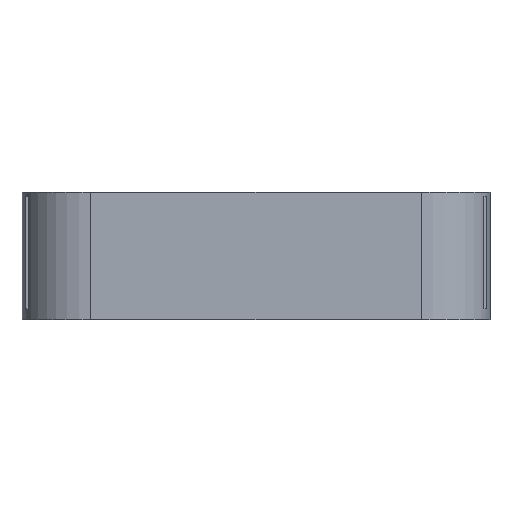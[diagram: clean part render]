
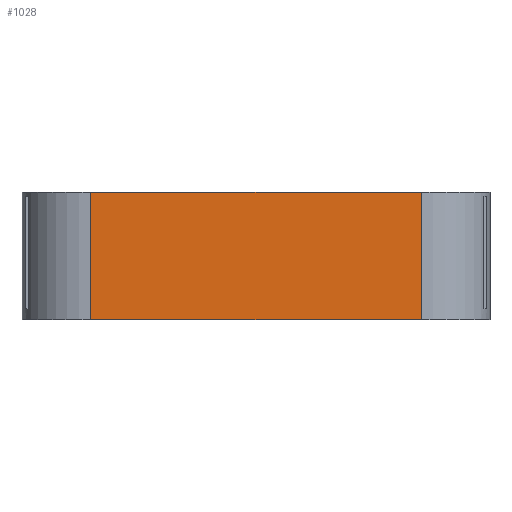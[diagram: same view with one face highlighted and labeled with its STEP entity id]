
A CAD part, front view. The second image highlights one B-rep face of the part: STEP entity #1028.
In plain terms, the highlighted planar face has unit normal (0, -1, 0).
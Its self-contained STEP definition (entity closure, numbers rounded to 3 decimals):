
#44 = PLANE('',#45);
#45 = AXIS2_PLACEMENT_3D('',#46,#47,#48);
#46 = CARTESIAN_POINT('',(-75.,-77.,41.));
#47 = DIRECTION('',(0.,0.,1.));
#48 = DIRECTION('',(1.,0.,0.));
#72 = CYLINDRICAL_SURFACE('',#73,22.);
#73 = AXIS2_PLACEMENT_3D('',#74,#75,#76);
#74 = CARTESIAN_POINT('',(-53.,-55.,0.));
#75 = DIRECTION('',(0.,0.,1.));
#76 = DIRECTION('',(-1.,-0.,0.));
#100 = PLANE('',#101);
#101 = AXIS2_PLACEMENT_3D('',#102,#103,#104);
#102 = CARTESIAN_POINT('',(-75.,-77.,0.));
#103 = DIRECTION('',(0.,0.,1.));
#104 = DIRECTION('',(1.,0.,0.));
#143 = VERTEX_POINT('',#144);
#144 = CARTESIAN_POINT('',(-53.,-77.,41.));
#166 = EDGE_CURVE('',#143,#167,#169,.T.);
#167 = VERTEX_POINT('',#168);
#168 = CARTESIAN_POINT('',(53.,-77.,41.));
#169 = SURFACE_CURVE('',#170,(#174,#181),.PCURVE_S1.);
#170 = LINE('',#171,#172);
#171 = CARTESIAN_POINT('',(-75.,-77.,41.));
#172 = VECTOR('',#173,1.);
#173 = DIRECTION('',(1.,0.,0.));
#174 = PCURVE('',#44,#175);
#175 = DEFINITIONAL_REPRESENTATION('',(#176),#180);
#176 = LINE('',#177,#178);
#177 = CARTESIAN_POINT('',(0.,0.));
#178 = VECTOR('',#179,1.);
#179 = DIRECTION('',(1.,0.));
#180 = ( GEOMETRIC_REPRESENTATION_CONTEXT(2) 
PARAMETRIC_REPRESENTATION_CONTEXT() REPRESENTATION_CONTEXT('2D SPACE',''
  ) );
#181 = PCURVE('',#182,#187);
#182 = PLANE('',#183);
#183 = AXIS2_PLACEMENT_3D('',#184,#185,#186);
#184 = CARTESIAN_POINT('',(-75.,-77.,0.));
#185 = DIRECTION('',(0.,1.,0.));
#186 = DIRECTION('',(0.,0.,1.));
#187 = DEFINITIONAL_REPRESENTATION('',(#188),#192);
#188 = LINE('',#189,#190);
#189 = CARTESIAN_POINT('',(41.,0.));
#190 = VECTOR('',#191,1.);
#191 = DIRECTION('',(0.,1.));
#192 = ( GEOMETRIC_REPRESENTATION_CONTEXT(2) 
PARAMETRIC_REPRESENTATION_CONTEXT() REPRESENTATION_CONTEXT('2D SPACE',''
  ) );
#215 = CYLINDRICAL_SURFACE('',#216,22.);
#216 = AXIS2_PLACEMENT_3D('',#217,#218,#219);
#217 = CARTESIAN_POINT('',(53.,-55.,0.));
#218 = DIRECTION('',(0.,0.,1.));
#219 = DIRECTION('',(1.,0.,-0.));
#572 = VERTEX_POINT('',#573);
#573 = CARTESIAN_POINT('',(-53.,-77.,0.));
#595 = EDGE_CURVE('',#572,#143,#596,.T.);
#596 = SURFACE_CURVE('',#597,(#601,#608),.PCURVE_S1.);
#597 = LINE('',#598,#599);
#598 = CARTESIAN_POINT('',(-53.,-77.,0.));
#599 = VECTOR('',#600,1.);
#600 = DIRECTION('',(0.,0.,1.));
#601 = PCURVE('',#72,#602);
#602 = DEFINITIONAL_REPRESENTATION('',(#603),#607);
#603 = LINE('',#604,#605);
#604 = CARTESIAN_POINT('',(1.571,0.));
#605 = VECTOR('',#606,1.);
#606 = DIRECTION('',(0.,1.));
#607 = ( GEOMETRIC_REPRESENTATION_CONTEXT(2) 
PARAMETRIC_REPRESENTATION_CONTEXT() REPRESENTATION_CONTEXT('2D SPACE',''
  ) );
#608 = PCURVE('',#182,#609);
#609 = DEFINITIONAL_REPRESENTATION('',(#610),#614);
#610 = LINE('',#611,#612);
#611 = CARTESIAN_POINT('',(0.,22.));
#612 = VECTOR('',#613,1.);
#613 = DIRECTION('',(1.,0.));
#614 = ( GEOMETRIC_REPRESENTATION_CONTEXT(2) 
PARAMETRIC_REPRESENTATION_CONTEXT() REPRESENTATION_CONTEXT('2D SPACE',''
  ) );
#909 = EDGE_CURVE('',#572,#910,#912,.T.);
#910 = VERTEX_POINT('',#911);
#911 = CARTESIAN_POINT('',(53.,-77.,0.));
#912 = SURFACE_CURVE('',#913,(#917,#924),.PCURVE_S1.);
#913 = LINE('',#914,#915);
#914 = CARTESIAN_POINT('',(-75.,-77.,0.));
#915 = VECTOR('',#916,1.);
#916 = DIRECTION('',(1.,0.,0.));
#917 = PCURVE('',#100,#918);
#918 = DEFINITIONAL_REPRESENTATION('',(#919),#923);
#919 = LINE('',#920,#921);
#920 = CARTESIAN_POINT('',(0.,0.));
#921 = VECTOR('',#922,1.);
#922 = DIRECTION('',(1.,0.));
#923 = ( GEOMETRIC_REPRESENTATION_CONTEXT(2) 
PARAMETRIC_REPRESENTATION_CONTEXT() REPRESENTATION_CONTEXT('2D SPACE',''
  ) );
#924 = PCURVE('',#182,#925);
#925 = DEFINITIONAL_REPRESENTATION('',(#926),#930);
#926 = LINE('',#927,#928);
#927 = CARTESIAN_POINT('',(0.,0.));
#928 = VECTOR('',#929,1.);
#929 = DIRECTION('',(0.,1.));
#930 = ( GEOMETRIC_REPRESENTATION_CONTEXT(2) 
PARAMETRIC_REPRESENTATION_CONTEXT() REPRESENTATION_CONTEXT('2D SPACE',''
  ) );
#1028 = ADVANCED_FACE('',(#1029),#182,.F.);
#1029 = FACE_BOUND('',#1030,.F.);
#1030 = EDGE_LOOP('',(#1031,#1032,#1033,#1034));
#1031 = ORIENTED_EDGE('',*,*,#909,.F.);
#1032 = ORIENTED_EDGE('',*,*,#595,.T.);
#1033 = ORIENTED_EDGE('',*,*,#166,.T.);
#1034 = ORIENTED_EDGE('',*,*,#1035,.F.);
#1035 = EDGE_CURVE('',#910,#167,#1036,.T.);
#1036 = SURFACE_CURVE('',#1037,(#1041,#1048),.PCURVE_S1.);
#1037 = LINE('',#1038,#1039);
#1038 = CARTESIAN_POINT('',(53.,-77.,0.));
#1039 = VECTOR('',#1040,1.);
#1040 = DIRECTION('',(0.,0.,1.));
#1041 = PCURVE('',#182,#1042);
#1042 = DEFINITIONAL_REPRESENTATION('',(#1043),#1047);
#1043 = LINE('',#1044,#1045);
#1044 = CARTESIAN_POINT('',(0.,128.));
#1045 = VECTOR('',#1046,1.);
#1046 = DIRECTION('',(1.,0.));
#1047 = ( GEOMETRIC_REPRESENTATION_CONTEXT(2) 
PARAMETRIC_REPRESENTATION_CONTEXT() REPRESENTATION_CONTEXT('2D SPACE',''
  ) );
#1048 = PCURVE('',#215,#1049);
#1049 = DEFINITIONAL_REPRESENTATION('',(#1050),#1054);
#1050 = LINE('',#1051,#1052);
#1051 = CARTESIAN_POINT('',(-1.571,0.));
#1052 = VECTOR('',#1053,1.);
#1053 = DIRECTION('',(-0.,1.));
#1054 = ( GEOMETRIC_REPRESENTATION_CONTEXT(2) 
PARAMETRIC_REPRESENTATION_CONTEXT() REPRESENTATION_CONTEXT('2D SPACE',''
  ) );
